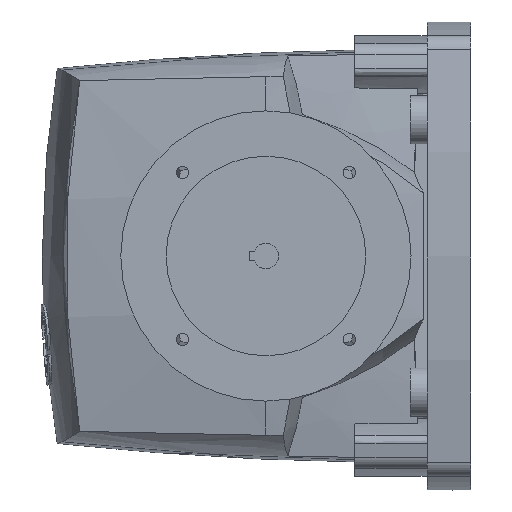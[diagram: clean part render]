
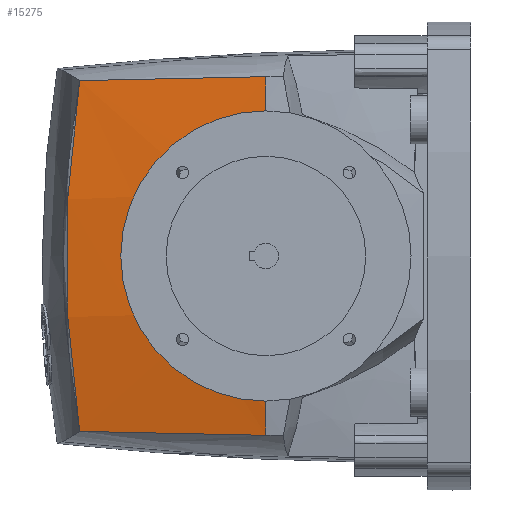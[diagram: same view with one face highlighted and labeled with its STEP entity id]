
A CAD part, left-side view. The second image highlights one B-rep face of the part: STEP entity #15275.
In plain terms, the highlighted free-form (B-spline) face has degree [3, 3] with [4, 4] control points.
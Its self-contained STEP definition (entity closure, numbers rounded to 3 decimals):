
#2554=CARTESIAN_POINT('',(-90.566,163.6,
-50.6));
#2555=CARTESIAN_POINT('',(-91.18,158.075,
-51.865));
#2556=CARTESIAN_POINT('',(-92.413,146.925,
-53.945));
#2557=CARTESIAN_POINT('',(-94.293,130.002,
-55.688));
#2558=CARTESIAN_POINT('',(-95.55,118.674,
-55.93));
#2559=CARTESIAN_POINT('',(-96.183,112.995,
-55.818));
#2561=CARTESIAN_POINT('',(589.642,113.006,
0.));
#2562=DIRECTION('',(0.,1.,0.));
#2563=DIRECTION('',(-0.99,0.,-0.144));
#2564=AXIS2_PLACEMENT_3D('',#2561,#2562,#2563);
#2566=CARTESIAN_POINT('',(-78.326,215.677,
-96.675));
#2567=CARTESIAN_POINT('',(-79.935,204.267,
-97.271));
#2568=CARTESIAN_POINT('',(-83.043,181.448,
-98.215));
#2569=CARTESIAN_POINT('',(-87.373,147.214,
-98.936));
#2570=CARTESIAN_POINT('',(-90.037,124.406,
-98.942));
#2571=CARTESIAN_POINT('',(-91.314,113.006,
-98.834));
#2573=CARTESIAN_POINT('',(-91.314,113.006,98.833));
#2574=CARTESIAN_POINT('',(-90.038,124.406,98.941));
#2575=CARTESIAN_POINT('',(-87.372,147.214,98.937));
#2576=CARTESIAN_POINT('',(-83.043,181.448,98.216));
#2577=CARTESIAN_POINT('',(-79.935,204.267,97.271));
#2578=CARTESIAN_POINT('',(-78.326,215.677,96.675));
#2580=CARTESIAN_POINT('',(589.642,113.006,
0.));
#2581=DIRECTION('',(0.,1.,0.));
#2582=DIRECTION('',(-0.997,0.,0.081));
#2583=AXIS2_PLACEMENT_3D('',#2580,#2581,#2582);
#2597=CARTESIAN_POINT('',(-90.566,163.6,50.6));
#2598=CARTESIAN_POINT('',(-90.926,165.596,42.327));
#2599=CARTESIAN_POINT('',(-91.487,168.604,25.547));
#2600=CARTESIAN_POINT('',(-91.759,170.119,
0.));
#2601=CARTESIAN_POINT('',(-91.486,168.604,
-25.547));
#2602=CARTESIAN_POINT('',(-90.925,165.596,
-42.327));
#2603=CARTESIAN_POINT('',(-90.566,163.6,
-50.6));
#2610=CARTESIAN_POINT('',(-90.566,163.6,50.6));
#2634=CARTESIAN_POINT('',(-96.183,112.991,55.818));
#2635=CARTESIAN_POINT('',(-95.55,118.676,55.931));
#2636=CARTESIAN_POINT('',(-94.294,130.001,55.688));
#2637=CARTESIAN_POINT('',(-92.413,146.926,53.945));
#2638=CARTESIAN_POINT('',(-91.181,158.075,51.865));
#2639=CARTESIAN_POINT('',(-90.566,163.6,50.6));
#2884=CARTESIAN_POINT('',(-78.326,215.677,
-96.675));
#2885=CARTESIAN_POINT('',(-79.846,217.513,
-84.291));
#2886=CARTESIAN_POINT('',(-82.319,220.53,
-59.261));
#2887=CARTESIAN_POINT('',(-84.213,223.214,
-20.913));
#2888=CARTESIAN_POINT('',(-84.288,223.332,17.989));
#2889=CARTESIAN_POINT('',(-82.486,220.743,57.273));
#2890=CARTESIAN_POINT('',(-79.939,217.625,83.532));
#2891=CARTESIAN_POINT('',(-78.326,215.677,96.675));
#10189=VERTEX_POINT('',#2554);
#10190=VERTEX_POINT('',#2559);
#10220=VERTEX_POINT('',#2610);
#10222=VERTEX_POINT('',#2634);
#10241=VERTEX_POINT('',#2566);
#10242=VERTEX_POINT('',#2571);
#10262=VERTEX_POINT('',#2573);
#10263=VERTEX_POINT('',#2578);
#15245=CARTESIAN_POINT('',(-76.188,225.431,
101.199));
#15246=CARTESIAN_POINT('',(-81.863,187.324,
102.061));
#15247=CARTESIAN_POINT('',(-86.76,149.107,
102.806));
#15248=CARTESIAN_POINT('',(-90.875,110.796,
103.431));
#15249=CARTESIAN_POINT('',(-86.403,225.431,
33.99));
#15250=CARTESIAN_POINT('',(-92.165,187.324,
34.28));
#15251=CARTESIAN_POINT('',(-97.137,149.107,
34.53));
#15252=CARTESIAN_POINT('',(-101.316,110.796,
34.74));
#15253=CARTESIAN_POINT('',(-86.403,225.431,
-33.99));
#15254=CARTESIAN_POINT('',(-92.165,187.324,
-34.28));
#15255=CARTESIAN_POINT('',(-97.137,149.107,
-34.53));
#15256=CARTESIAN_POINT('',(-101.316,110.796,
-34.74));
#15257=CARTESIAN_POINT('',(-76.188,225.431,
-101.198));
#15258=CARTESIAN_POINT('',(-81.863,187.324,
-102.061));
#15259=CARTESIAN_POINT('',(-86.76,149.107,
-102.805));
#15260=CARTESIAN_POINT('',(-90.875,110.796,
-103.431));
#15261=(BOUNDED_SURFACE()B_SPLINE_SURFACE(3,3,((#15245,#15246,#15247,#15248),(
#15249,#15250,#15251,#15252),(#15253,#15254,#15255,#15256),(#15257,#15258,
#15259,#15260)),.UNSPECIFIED.,.F.,.F.,.F.)B_SPLINE_SURFACE_WITH_KNOTS((4,4),(4,
4),(0.,1.),(0.,1.),.UNSPECIFIED.)GEOMETRIC_REPRESENTATION_ITEM()RATIONAL_B_SPLINE_SURFACE(((1.006,1.006,1.006,
1.006),(0.998,0.998,0.998,
0.998),(0.998,0.998,0.998,
0.998),(1.006,1.006,1.006,
1.006)))REPRESENTATION_ITEM('')SURFACE());
#15263=ORIENTED_EDGE('',*,*,#15262,.T.);
#15264=ORIENTED_EDGE('',*,*,#15237,.T.);
#15265=ORIENTED_EDGE('',*,*,#14699,.F.);
#15266=ORIENTED_EDGE('',*,*,#13538,.F.);
#15268=ORIENTED_EDGE('',*,*,#15267,.T.);
#15269=ORIENTED_EDGE('',*,*,#14622,.F.);
#15270=ORIENTED_EDGE('',*,*,#14689,.F.);
#15272=ORIENTED_EDGE('',*,*,#15271,.T.);
#15273=EDGE_LOOP('',(#15263,#15264,#15265,#15266,#15268,#15269,#15270,#15272));
#15274=FACE_OUTER_BOUND('',#15273,.F.);
#15275=ADVANCED_FACE('',(#15274),#15261,.T.);
#2560=B_SPLINE_CURVE_WITH_KNOTS('',3,(#2554,#2555,#2556,#2557,#2558,#2559),
.UNSPECIFIED.,.F.,.F.,(4,1,1,4),(0.,0.333,0.667,1.),
.UNSPECIFIED.);
#2565=CIRCLE('',#2564,688.091);
#2572=B_SPLINE_CURVE_WITH_KNOTS('',3,(#2566,#2567,#2568,#2569,#2570,#2571),
.UNSPECIFIED.,.F.,.F.,(4,1,1,4),(0.,0.333,0.667,1.),
.UNSPECIFIED.);
#2579=B_SPLINE_CURVE_WITH_KNOTS('',3,(#2573,#2574,#2575,#2576,#2577,#2578),
.UNSPECIFIED.,.F.,.F.,(4,1,1,4),(0.,0.333,0.667,1.),
.UNSPECIFIED.);
#2584=CIRCLE('',#2583,688.091);
#2604=B_SPLINE_CURVE_WITH_KNOTS('',3,(#2597,#2598,#2599,#2600,#2601,#2602,
#2603),.UNSPECIFIED.,.F.,.F.,(4,1,1,1,4),(0.,0.25,0.5,0.75,1.),
.UNSPECIFIED.);
#2640=B_SPLINE_CURVE_WITH_KNOTS('',3,(#2634,#2635,#2636,#2637,#2638,#2639),
.UNSPECIFIED.,.F.,.F.,(4,1,1,4),(0.,0.333,0.667,1.),
.UNSPECIFIED.);
#2892=B_SPLINE_CURVE_WITH_KNOTS('',3,(#2884,#2885,#2886,#2887,#2888,#2889,#2890,
#2891),.UNSPECIFIED.,.F.,.F.,(4,1,1,1,1,4),(0.,0.2,0.4,0.6,0.8,1.),
.UNSPECIFIED.);
#13538=EDGE_CURVE('',#10241,#10242,#2572,.T.);
#14622=EDGE_CURVE('',#10262,#10263,#2579,.T.);
#14689=EDGE_CURVE('',#10222,#10262,#2584,.T.);
#14699=EDGE_CURVE('',#10242,#10190,#2565,.T.);
#15237=EDGE_CURVE('',#10189,#10190,#2560,.T.);
#15262=EDGE_CURVE('',#10220,#10189,#2604,.T.);
#15267=EDGE_CURVE('',#10241,#10263,#2892,.T.);
#15271=EDGE_CURVE('',#10222,#10220,#2640,.T.);
